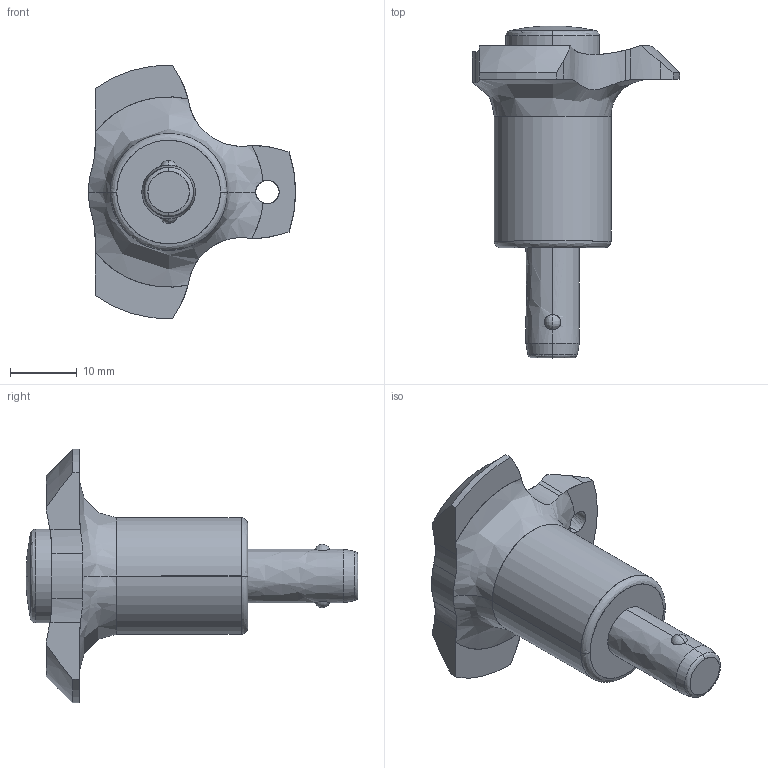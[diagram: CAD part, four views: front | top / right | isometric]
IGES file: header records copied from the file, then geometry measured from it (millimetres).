
Start section: SolidWorks IGES file using analytic representation for surfaces
Global section: file name: C:\Users\ianosborn\Desktop\33180_v2\33180_v2_20250106_IGES\33180.W0022.igs; native system: SolidWorks 2019; preprocessor: SolidWorks 2019; author: IanOsborn; date: 250106.111500; units: millimetre
Bounding box: 31 x 49.7 x 37.98 mm (x, y, z)
Surface area: 6182.6 mm2 (no closed solid volume)
Topology: 0 solids, 0 shells, 68 faces, 971 edges, 970 vertices
Faces by surface type: revolution 40, bspline 28
